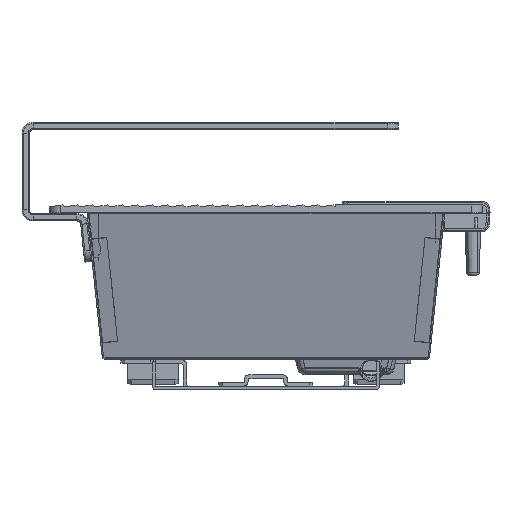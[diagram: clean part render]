
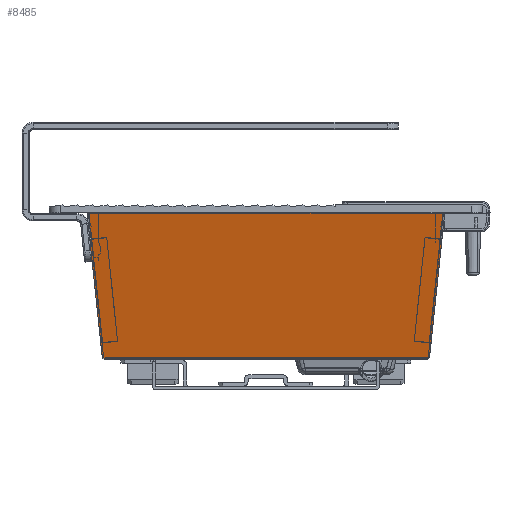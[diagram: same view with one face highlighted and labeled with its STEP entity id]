
A CAD part, front view. The second image highlights one B-rep face of the part: STEP entity #8485.
In plain terms, the highlighted planar face has unit normal (0, -0.974, -0.225).
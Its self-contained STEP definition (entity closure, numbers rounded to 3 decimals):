
#616 = VERTEX_POINT('',#617);
#617 = CARTESIAN_POINT('',(85.3,-502.24,-76.925));
#732 = VERTEX_POINT('',#733);
#733 = CARTESIAN_POINT('',(-85.3,-502.24,-76.925));
#8474 = EDGE_CURVE('',#616,#732,#8475,.T.);
#8475 = LINE('',#8476,#8477);
#8476 = CARTESIAN_POINT('',(85.3,-502.24,-76.925));
#8477 = VECTOR('',#8478,1.);
#8478 = DIRECTION('',(-1.,0.,0.));
#8485 = ADVANCED_FACE('',(#8486),#8577,.T.);
#8486 = FACE_BOUND('',#8487,.F.);
#8487 = EDGE_LOOP('',(#8488,#8498,#8506,#8514,#8522,#8530,#8538,#8547,
    #8553,#8554,#8562,#8571));
#8488 = ORIENTED_EDGE('',*,*,#8489,.T.);
#8489 = EDGE_CURVE('',#8490,#8492,#8494,.T.);
#8490 = VERTEX_POINT('',#8491);
#8491 = CARTESIAN_POINT('',(-93.541,-516.794,
    -13.885));
#8492 = VERTEX_POINT('',#8493);
#8493 = CARTESIAN_POINT('',(-92.844,-516.81,
    -13.815));
#8494 = LINE('',#8495,#8496);
#8495 = CARTESIAN_POINT('',(-93.541,-516.794,
    -13.885));
#8496 = VECTOR('',#8497,1.);
#8497 = DIRECTION('',(0.995,-0.023,
    0.099));
#8498 = ORIENTED_EDGE('',*,*,#8499,.T.);
#8499 = EDGE_CURVE('',#8492,#8500,#8502,.T.);
#8500 = VERTEX_POINT('',#8501);
#8501 = CARTESIAN_POINT('',(-94.296,-520.,0.));
#8502 = LINE('',#8503,#8504);
#8503 = CARTESIAN_POINT('',(-92.844,-516.81,
    -13.815));
#8504 = VECTOR('',#8505,1.);
#8505 = DIRECTION('',(-0.102,-0.224,0.969));
#8506 = ORIENTED_EDGE('',*,*,#8507,.T.);
#8507 = EDGE_CURVE('',#8500,#8508,#8510,.T.);
#8508 = VERTEX_POINT('',#8509);
#8509 = CARTESIAN_POINT('',(94.296,-520.,0.));
#8510 = LINE('',#8511,#8512);
#8511 = CARTESIAN_POINT('',(-94.296,-520.,0.));
#8512 = VECTOR('',#8513,1.);
#8513 = DIRECTION('',(1.,0.,0.));
#8514 = ORIENTED_EDGE('',*,*,#8515,.F.);
#8515 = EDGE_CURVE('',#8516,#8508,#8518,.T.);
#8516 = VERTEX_POINT('',#8517);
#8517 = CARTESIAN_POINT('',(92.844,-516.81,
    -13.815));
#8518 = LINE('',#8519,#8520);
#8519 = CARTESIAN_POINT('',(92.844,-516.81,
    -13.815));
#8520 = VECTOR('',#8521,1.);
#8521 = DIRECTION('',(0.102,-0.224,0.969));
#8522 = ORIENTED_EDGE('',*,*,#8523,.F.);
#8523 = EDGE_CURVE('',#8524,#8516,#8526,.T.);
#8524 = VERTEX_POINT('',#8525);
#8525 = CARTESIAN_POINT('',(93.541,-516.794,
    -13.885));
#8526 = LINE('',#8527,#8528);
#8527 = CARTESIAN_POINT('',(93.541,-516.794,
    -13.885));
#8528 = VECTOR('',#8529,1.);
#8529 = DIRECTION('',(-0.995,-0.023,
    0.099));
#8530 = ORIENTED_EDGE('',*,*,#8531,.F.);
#8531 = EDGE_CURVE('',#8532,#8524,#8534,.T.);
#8532 = VERTEX_POINT('',#8533);
#8533 = CARTESIAN_POINT('',(87.007,-502.443,
    -76.05));
#8534 = LINE('',#8535,#8536);
#8535 = CARTESIAN_POINT('',(87.007,-502.443,
    -76.05));
#8536 = VECTOR('',#8537,1.);
#8537 = DIRECTION('',(0.102,-0.224,0.969));
#8538 = ORIENTED_EDGE('',*,*,#8539,.F.);
#8539 = EDGE_CURVE('',#8540,#8532,#8542,.T.);
#8540 = VERTEX_POINT('',#8541);
#8541 = CARTESIAN_POINT('',(86.012,-502.24,
    -76.925));
#8542 = CIRCLE('',#8543,1.);
#8543 = AXIS2_PLACEMENT_3D('',#8544,#8545,#8546);
#8544 = CARTESIAN_POINT('',(86.012,-502.465,
    -75.951));
#8545 = DIRECTION('',(0.,-0.974,-0.225));
#8546 = DIRECTION('',(0.,0.225,-0.974)
  );
#8547 = ORIENTED_EDGE('',*,*,#8548,.T.);
#8548 = EDGE_CURVE('',#8540,#616,#8549,.T.);
#8549 = LINE('',#8550,#8551);
#8550 = CARTESIAN_POINT('',(86.012,-502.24,
    -76.925));
#8551 = VECTOR('',#8552,1.);
#8552 = DIRECTION('',(-1.,0.,0.));
#8553 = ORIENTED_EDGE('',*,*,#8474,.T.);
#8554 = ORIENTED_EDGE('',*,*,#8555,.F.);
#8555 = EDGE_CURVE('',#8556,#732,#8558,.T.);
#8556 = VERTEX_POINT('',#8557);
#8557 = CARTESIAN_POINT('',(-86.012,-502.24,
    -76.925));
#8558 = LINE('',#8559,#8560);
#8559 = CARTESIAN_POINT('',(-86.012,-502.24,
    -76.925));
#8560 = VECTOR('',#8561,1.);
#8561 = DIRECTION('',(1.,0.,0.));
#8562 = ORIENTED_EDGE('',*,*,#8563,.F.);
#8563 = EDGE_CURVE('',#8564,#8556,#8566,.T.);
#8564 = VERTEX_POINT('',#8565);
#8565 = CARTESIAN_POINT('',(-87.007,-502.443,
    -76.05));
#8566 = CIRCLE('',#8567,1.);
#8567 = AXIS2_PLACEMENT_3D('',#8568,#8569,#8570);
#8568 = CARTESIAN_POINT('',(-86.012,-502.465,
    -75.951));
#8569 = DIRECTION('',(0.,-0.974,-0.225));
#8570 = DIRECTION('',(-0.995,0.023,
    -0.099));
#8571 = ORIENTED_EDGE('',*,*,#8572,.T.);
#8572 = EDGE_CURVE('',#8564,#8490,#8573,.T.);
#8573 = LINE('',#8574,#8575);
#8574 = CARTESIAN_POINT('',(-87.007,-502.443,
    -76.05));
#8575 = VECTOR('',#8576,1.);
#8576 = DIRECTION('',(-0.102,-0.224,0.969));
#8577 = PLANE('',#8578);
#8578 = AXIS2_PLACEMENT_3D('',#8579,#8580,#8581);
#8579 = CARTESIAN_POINT('',(-95.,-520.,0.));
#8580 = DIRECTION('',(0.,-0.974,-0.225));
#8581 = DIRECTION('',(0.,0.225,-0.974));
